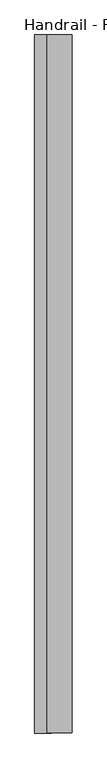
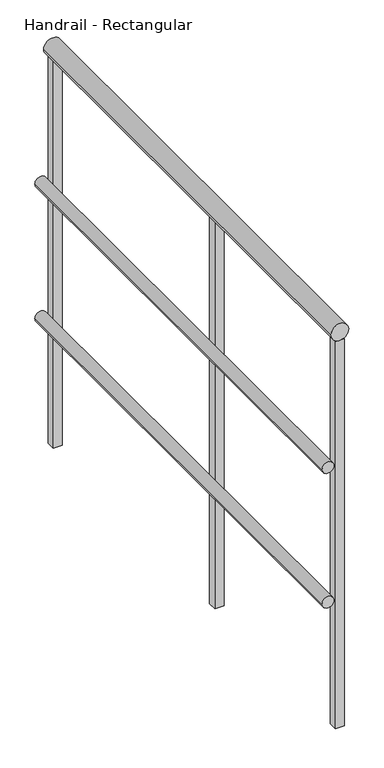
"""IFC4 building model written with IfcOpenShell, lengths in millimetres: railing geometry, Handrail - Rectangular."""

from ifc_helpers import new_model, si_unit, point, frame, frame_2d, origin, place, context, project, spatial, polyline, circle_curve, trimmed, segment, composite_curve, outline, extrude, source, transform, mapped, element, save


def handrail_rectangular_e9c0440f(model_context):
    return source(origin(), model_context, "Body", "SweptSolid", [
        extrude(outline(composite_curve([segment(trimmed(circle_curve(frame_2d((9740.9, -32192.8839563)), 12.7), [point((9740.9, -32205.5839563))], [point((9740.9, -32180.1839563))], False, "CARTESIAN"), True, "CONTINUOUS"), segment(trimmed(circle_curve(frame_2d((9740.9, -32192.8839563)), 12.7), [point((9740.9, -32180.1839563))], [point((9740.9, -32205.5839563))], False, "CARTESIAN"), True, "CONTINUOUS")], self_intersect=False)), frame((0.0, 10674.8316867, 0.0), z_axis=(0.0, 1.0, 0.0), x_axis=(0.0, 0.0, 1.0)), (0.0, 0.0, 1.0), 1066.8),
        extrude(outline(composite_curve([segment(trimmed(circle_curve(frame_2d((9436.1, -32192.8839563)), 12.7), [point((9436.1, -32205.5839563))], [point((9436.1, -32180.1839563))], False, "CARTESIAN"), True, "CONTINUOUS"), segment(trimmed(circle_curve(frame_2d((9436.1, -32192.8839563)), 12.7), [point((9436.1, -32180.1839563))], [point((9436.1, -32205.5839563))], False, "CARTESIAN"), True, "CONTINUOUS")], self_intersect=False)), frame((0.0, 10674.8316867, 0.0), z_axis=(0.0, 1.0, 0.0), x_axis=(0.0, 0.0, 1.0)), (0.0, 0.0, 1.0), 1066.8),
        extrude(outline(composite_curve([segment(trimmed(circle_curve(frame_2d((10039.35, -32167.4839563)), 19.05), [point((10039.35, -32186.5339563))], [point((10039.35, -32148.4339563))], False, "CARTESIAN"), True, "CONTINUOUS"), segment(trimmed(circle_curve(frame_2d((10039.35, -32167.4839563)), 19.05), [point((10039.35, -32148.4339563))], [point((10039.35, -32186.5339563))], False, "CARTESIAN"), True, "CONTINUOUS")], self_intersect=False)), frame((0.0, 10674.8316867, 0.0), z_axis=(0.0, 1.0, 0.0), x_axis=(0.0, 0.0, 1.0)), (0.0, 0.0, 1.0), 1066.8),
        extrude(outline(polyline([(-32157.9589563, 11141.5566867), (-32157.9589563, 11122.5066867), (-32177.0089563, 11122.5066867), (-32177.0089563, 11141.5566867), (-32157.9589563, 11141.5566867)])), frame((0.0, 0.0, 9144.0), z_axis=(0.0, 0.0, 1.0), x_axis=(1.0, 0.0, 0.0)), (0.0, 0.0, 1.0), 876.3),
        extrude(outline(polyline([(-32157.9589563, 10693.8816867), (-32157.9589563, 10674.8316867), (-32177.0089563, 10674.8316867), (-32177.0089563, 10693.8816867), (-32157.9589563, 10693.8816867)])), frame((0.0, 0.0, 9144.0), z_axis=(0.0, 0.0, 1.0), x_axis=(1.0, 0.0, 0.0)), (0.0, 0.0, 1.0), 876.3),
        extrude(outline(polyline([(-32157.9589563, 11741.6316867), (-32157.9589563, 11722.5816867), (-32177.0089563, 11722.5816867), (-32177.0089563, 11741.6316867), (-32157.9589563, 11741.6316867)])), frame((0.0, 0.0, 9144.0), z_axis=(0.0, 0.0, 1.0), x_axis=(1.0, 0.0, 0.0)), (0.0, 0.0, 1.0), 876.3),
    ])


if __name__ == "__main__":
    model = new_model("IFC4")
    model_context = context("Model", 3, world=origin())
    ifc_project = project(units=[si_unit("LENGTHUNIT", "METRE", prefix="MILLI")], contexts=[model_context])
    site = spatial("IfcSite", under=ifc_project)
    building = spatial("IfcBuilding", under=site)
    placement = place(None, origin())
    handrail_rectangular_shape = handrail_rectangular_e9c0440f(model_context)
    element("IfcRailing", 1, ObjectType="Handrail - Rectangular", at=placement, inside=building, context=model_context, shape_type="MappedRepresentation", body=[
        mapped(handrail_rectangular_shape, transform((0.0, 0.0, 0.0), x_axis=(1.0, 0.0, 0.0), y_axis=(0.0, 1.0, 0.0), z_axis=(0.0, 0.0, 1.0))),
    ])
    save(model, "model.ifc")
